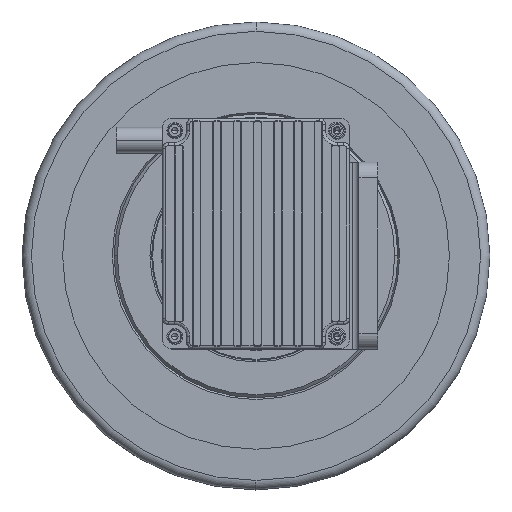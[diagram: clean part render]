
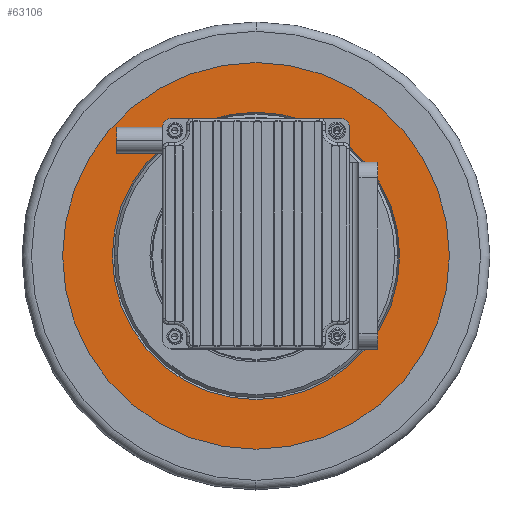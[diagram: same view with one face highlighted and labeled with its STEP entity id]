
A CAD part, top view. The second image highlights one B-rep face of the part: STEP entity #63106.
In plain terms, the highlighted planar face has unit normal (0, 0, 1).
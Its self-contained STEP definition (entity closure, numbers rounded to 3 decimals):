
#3161 = AXIS2_PLACEMENT_3D ( 'NONE', #108937, #78814, #69392 ) ;
#5481 = CARTESIAN_POINT ( 'NONE',  ( 0., 46.077, 153.525 ) ) ;
#14351 = DIRECTION ( 'NONE',  ( 0., -1., 0. ) ) ;
#17051 = CIRCLE ( 'NONE', #123902, 46.077 ) ;
#18789 = CARTESIAN_POINT ( 'NONE',  ( 0., 62., 153.525 ) ) ;
#19444 = EDGE_CURVE ( 'NONE', #35582, #107496, #25404, .T. ) ;
#20097 = DIRECTION ( 'NONE',  ( 0., 0., -1. ) ) ;
#21981 = FACE_OUTER_BOUND ( 'NONE', #129428, .T. ) ;
#24232 = DIRECTION ( 'NONE',  ( 0., -1., 0. ) ) ;
#25404 = CIRCLE ( 'NONE', #95922, 62. ) ;
#26417 = DIRECTION ( 'NONE',  ( 0., 0., -1. ) ) ;
#30583 = DIRECTION ( 'NONE',  ( 0., 1., 0. ) ) ;
#34247 = AXIS2_PLACEMENT_3D ( 'NONE', #83008, #20097, #90426 ) ;
#34926 = VERTEX_POINT ( 'NONE', #5481 ) ;
#35214 = CIRCLE ( 'NONE', #3161, 46.077 ) ;
#35582 = VERTEX_POINT ( 'NONE', #124865 ) ;
#41501 = VERTEX_POINT ( 'NONE', #127326 ) ;
#45805 = CARTESIAN_POINT ( 'NONE',  ( 0., 0., 153.525 ) ) ;
#50274 = EDGE_CURVE ( 'NONE', #55014, #34926, #17051, .T. ) ;
#53133 = EDGE_CURVE ( 'NONE', #41501, #55014, #35214, .T. ) ;
#53683 = CARTESIAN_POINT ( 'NONE',  ( 0., 0., 153.525 ) ) ;
#54903 = AXIS2_PLACEMENT_3D ( 'NONE', #92828, #63315, #30583 ) ;
#55014 = VERTEX_POINT ( 'NONE', #124620 ) ;
#63106 = ADVANCED_FACE ( 'NONE', ( #63450, #21981 ), #103661, .F. ) ;
#63315 = DIRECTION ( 'NONE',  ( 0., 0., -1. ) ) ;
#63450 = FACE_BOUND ( 'NONE', #84395, .T. ) ;
#64755 = DIRECTION ( 'NONE',  ( 0., -1., 0. ) ) ;
#66224 = AXIS2_PLACEMENT_3D ( 'NONE', #104327, #91644, #64755 ) ;
#69392 = DIRECTION ( 'NONE',  ( 0., 1., 0. ) ) ;
#70070 = ORIENTED_EDGE ( 'NONE', *, *, #53133, .T. ) ;
#73783 = DIRECTION ( 'NONE',  ( 0., 0., -1. ) ) ;
#78814 = DIRECTION ( 'NONE',  ( 0., 0., -1. ) ) ;
#82239 = ORIENTED_EDGE ( 'NONE', *, *, #19444, .F. ) ;
#83008 = CARTESIAN_POINT ( 'NONE',  ( 0., 0., 153.525 ) ) ;
#84395 = EDGE_LOOP ( 'NONE', ( #86466, #88673, #70070 ) ) ;
#86466 = ORIENTED_EDGE ( 'NONE', *, *, #50274, .T. ) ;
#88673 = ORIENTED_EDGE ( 'NONE', *, *, #118879, .T. ) ;
#90426 = DIRECTION ( 'NONE',  ( 0., 1., 0. ) ) ;
#91644 = DIRECTION ( 'NONE',  ( 0., 0., -1. ) ) ;
#91979 = CIRCLE ( 'NONE', #34247, 46.077 ) ;
#92828 = CARTESIAN_POINT ( 'NONE',  ( 0., 0., 153.525 ) ) ;
#95922 = AXIS2_PLACEMENT_3D ( 'NONE', #53683, #73783, #24232 ) ;
#103661 = PLANE ( 'NONE',  #66224 ) ;
#104327 = CARTESIAN_POINT ( 'NONE',  ( 0., 0., 153.525 ) ) ;
#107496 = VERTEX_POINT ( 'NONE', #18789 ) ;
#108937 = CARTESIAN_POINT ( 'NONE',  ( 0., 0., 153.525 ) ) ;
#109798 = ORIENTED_EDGE ( 'NONE', *, *, #130477, .F. ) ;
#112655 = CIRCLE ( 'NONE', #54903, 62. ) ;
#118879 = EDGE_CURVE ( 'NONE', #34926, #41501, #91979, .T. ) ;
#123902 = AXIS2_PLACEMENT_3D ( 'NONE', #45805, #26417, #14351 ) ;
#124620 = CARTESIAN_POINT ( 'NONE',  ( 0., -46.077, 153.525 ) ) ;
#124865 = CARTESIAN_POINT ( 'NONE',  ( 0., -62., 153.525 ) ) ;
#127326 = CARTESIAN_POINT ( 'NONE',  ( 46.077, 0., 153.525 ) ) ;
#129428 = EDGE_LOOP ( 'NONE', ( #109798, #82239 ) ) ;
#130477 = EDGE_CURVE ( 'NONE', #107496, #35582, #112655, .T. ) ;
